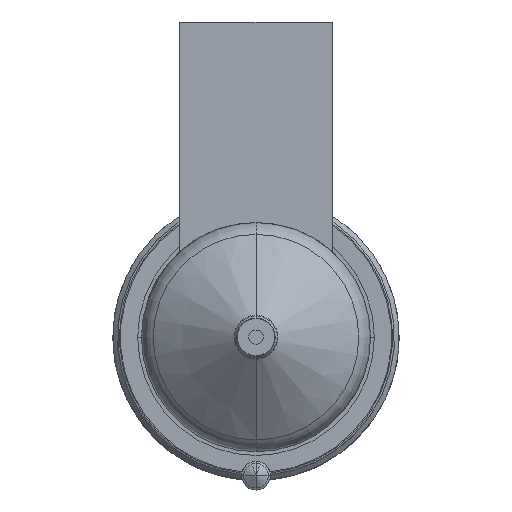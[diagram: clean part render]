
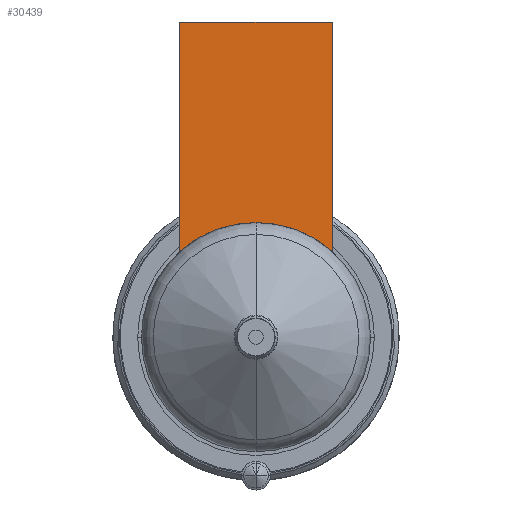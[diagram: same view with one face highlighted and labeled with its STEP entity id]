
A CAD part, front view. The second image highlights one B-rep face of the part: STEP entity #30439.
In plain terms, the highlighted planar face has unit normal (0, -1, 0).
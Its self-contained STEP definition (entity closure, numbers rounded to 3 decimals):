
#29753=DIRECTION('',(0.,0.,-1.));
#29754=VECTOR('',#29753,24.056);
#29755=CARTESIAN_POINT('',(-8.,-56.,33.));
#29756=LINE('',#29755,#29754);
#29793=DIRECTION('',(1.,0.,0.));
#29794=VECTOR('',#29793,16.);
#29795=CARTESIAN_POINT('',(-8.,-56.,33.));
#29796=LINE('',#29795,#29794);
#29800=CARTESIAN_POINT('',(0.,-56.,0.));
#29801=DIRECTION('',(0.,-1.,0.));
#29802=DIRECTION('',(0.667,0.,0.745));
#29803=AXIS2_PLACEMENT_3D('',#29800,#29801,#29802);
#29808=CARTESIAN_POINT('',(0.,-56.,0.));
#29809=DIRECTION('',(0.,-1.,0.));
#29810=DIRECTION('',(0.,0.,1.));
#29811=AXIS2_PLACEMENT_3D('',#29808,#29809,#29810);
#29844=DIRECTION('',(0.,0.,-1.));
#29845=VECTOR('',#29844,24.056);
#29846=CARTESIAN_POINT('',(8.,-56.,33.));
#29847=LINE('',#29846,#29845);
#30303=CARTESIAN_POINT('',(-8.,-56.,33.));
#30304=VERTEX_POINT('',#30303);
#30309=CARTESIAN_POINT('',(8.,-56.,33.));
#30310=VERTEX_POINT('',#30309);
#30313=CARTESIAN_POINT('',(-8.,-56.,8.944));
#30314=VERTEX_POINT('',#30313);
#30317=CARTESIAN_POINT('',(8.,-56.,8.944));
#30318=VERTEX_POINT('',#30317);
#30358=CARTESIAN_POINT('',(0.,-56.,12.));
#30359=VERTEX_POINT('',#30358);
#30424=CARTESIAN_POINT('',(-8.,-56.,33.));
#30425=DIRECTION('',(0.,-1.,0.));
#30426=DIRECTION('',(0.,0.,-1.));
#30427=AXIS2_PLACEMENT_3D('',#30424,#30425,#30426);
#30428=PLANE('',#30427);
#30429=ORIENTED_EDGE('',*,*,#30372,.F.);
#30431=ORIENTED_EDGE('',*,*,#30430,.T.);
#30433=ORIENTED_EDGE('',*,*,#30432,.T.);
#30435=ORIENTED_EDGE('',*,*,#30434,.T.);
#30436=ORIENTED_EDGE('',*,*,#30404,.T.);
#30437=EDGE_LOOP('',(#30429,#30431,#30433,#30435,#30436));
#30438=FACE_OUTER_BOUND('',#30437,.F.);
#30439=ADVANCED_FACE('',(#30438),#30428,.T.);
#29804=CIRCLE('',#29803,12.);
#29812=CIRCLE('',#29811,12.);
#30372=EDGE_CURVE('',#30304,#30314,#29756,.T.);
#30404=EDGE_CURVE('',#30359,#30314,#29812,.T.);
#30430=EDGE_CURVE('',#30304,#30310,#29796,.T.);
#30432=EDGE_CURVE('',#30310,#30318,#29847,.T.);
#30434=EDGE_CURVE('',#30318,#30359,#29804,.T.);
